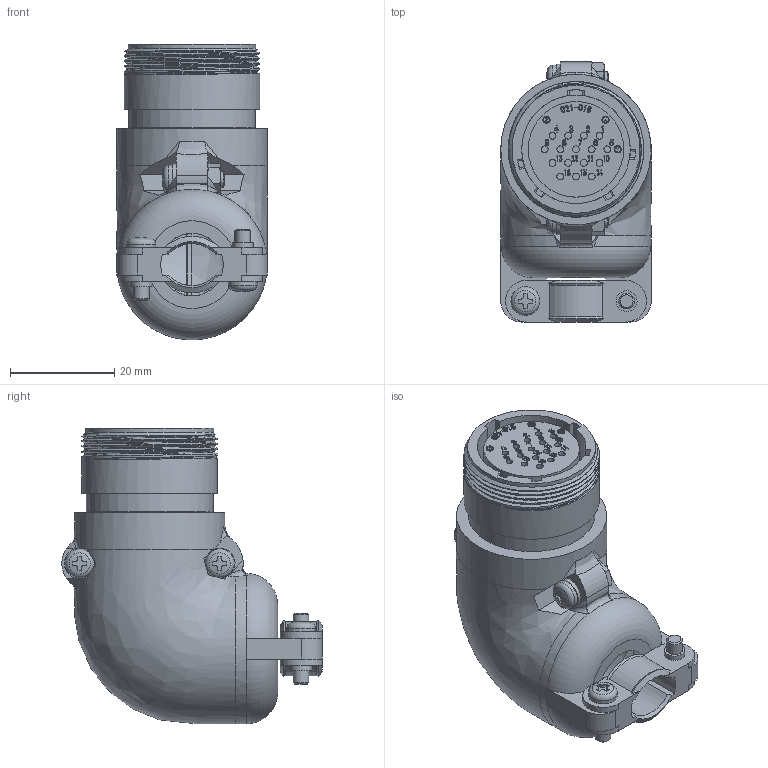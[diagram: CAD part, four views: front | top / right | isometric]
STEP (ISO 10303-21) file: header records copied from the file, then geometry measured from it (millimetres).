
FILE_DESCRIPTION (( 'STEP AP203' ), '1' );
FILE_NAME ('JMCL2116F-D.STEP', '2021-06-30T07:40:20', ( '' ), ( '' ), 'SwSTEP 2.0', 'SolidWorks 2018', '' );
FILE_SCHEMA (( 'CONFIG_CONTROL_DESIGN' ));
Length unit declared in the file: millimetre
Products named in the file (1): JMCL2116F-D
Bounding box: 28.8 x 49.78 x 56.6 mm (x, y, z)
Volume: 19283.8 mm3; surface area: 15071.3 mm2
Topology: 1 solids, 4 shells, 1586 faces, 4296 edges, 2829 vertices
Faces by surface type: plane 722, bspline 610, cylinder 182, cone 46, torus 22, sphere 4
Full cylindrical faces by diameter (mm): 1.1 x19, 1.2 x1, 1.3 x16, 1.4 x4, 1.55 x16, 2.4 x4, 3 x8, 3.3 x2, 3.5 x2, 4 x2, 5.5 x2, 12 x1, 18.1 x1, 18.3 x1, 20.6 x1, 20.8 x1, 22.8 x1, 24.3 x1, 24.5 x1, 25.96 x4, 28.8 x1
Entity records: 71905 total; most frequent: CARTESIAN_POINT 37137, ORIENTED_EDGE 8248, DIRECTION 5009, EDGE_CURVE 4124, VERTEX_POINT 2785, LINE 2251, VECTOR 2251, EDGE_LOOP 1825
